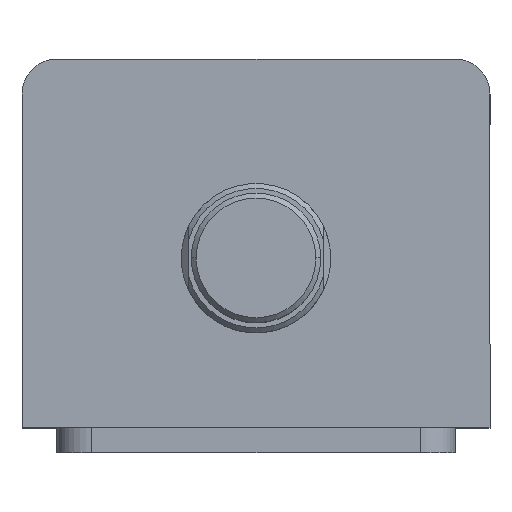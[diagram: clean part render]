
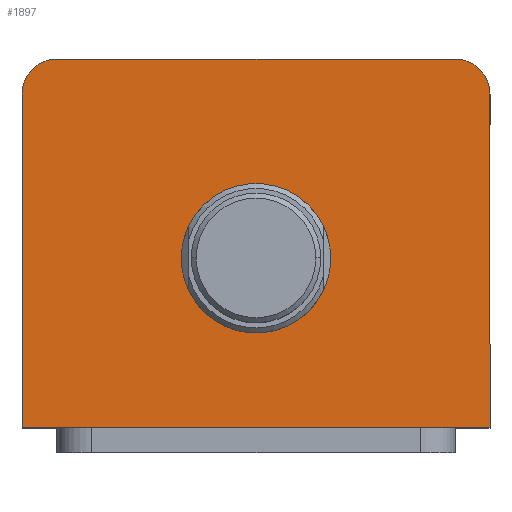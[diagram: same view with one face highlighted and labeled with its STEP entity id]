
A CAD part, top view. The second image highlights one B-rep face of the part: STEP entity #1897.
In plain terms, the highlighted planar face has unit normal (0, 0, 1).
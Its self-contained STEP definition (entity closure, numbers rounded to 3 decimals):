
#211 = VERTEX_POINT ( 'NONE', #2722 ) ;
#240 = VERTEX_POINT ( 'NONE', #2674 ) ;
#242 = VERTEX_POINT ( 'NONE', #2662 ) ;
#270 = VERTEX_POINT ( 'NONE', #2762 ) ;
#301 = VERTEX_POINT ( 'NONE', #2727 ) ;
#311 = VERTEX_POINT ( 'NONE', #2703 ) ;
#314 = VERTEX_POINT ( 'NONE', #2696 ) ;
#315 = VERTEX_POINT ( 'NONE', #2694 ) ;
#412 = EDGE_LOOP ( 'NONE', ( #451, #450, #449, #448, #447, #446 ) ) ;
#418 = EDGE_LOOP ( 'NONE', ( #453, #452 ) ) ;
#446 = ORIENTED_EDGE ( 'NONE', *, *, #2778, .T. ) ;
#447 = ORIENTED_EDGE ( 'NONE', *, *, #750, .T. ) ;
#448 = ORIENTED_EDGE ( 'NONE', *, *, #2579, .T. ) ;
#449 = ORIENTED_EDGE ( 'NONE', *, *, #2801, .T. ) ;
#450 = ORIENTED_EDGE ( 'NONE', *, *, #2791, .T. ) ;
#451 = ORIENTED_EDGE ( 'NONE', *, *, #2580, .T. ) ;
#452 = ORIENTED_EDGE ( 'NONE', *, *, #2578, .F. ) ;
#453 = ORIENTED_EDGE ( 'NONE', *, *, #2814, .F. ) ;
#674 = LINE ( 'NONE', #1397, #679 ) ;
#679 = VECTOR ( 'NONE', #1415, 1000. ) ;
#750 = EDGE_CURVE ( 'NONE', #242, #301, #674, .T. ) ;
#1190 = FACE_BOUND ( 'NONE', #418, .T. ) ;
#1201 = FACE_OUTER_BOUND ( 'NONE', #412, .T. ) ;
#1229 = CIRCLE ( 'NONE', #2033, 15. ) ;
#1231 = LINE ( 'NONE', #2189, #1233 ) ;
#1232 = LINE ( 'NONE', #2142, #1235 ) ;
#1233 = VECTOR ( 'NONE', #2179, 1000. ) ;
#1235 = VECTOR ( 'NONE', #2138, 1000. ) ;
#1281 = CIRCLE ( 'NONE', #2435, 7. ) ;
#1300 = CIRCLE ( 'NONE', #2424, 7. ) ;
#1314 = LINE ( 'NONE', #2218, #1317 ) ;
#1317 = VECTOR ( 'NONE', #2217, 1000. ) ;
#1397 = CARTESIAN_POINT ( 'NONE',  ( 47., 37., 80. ) ) ;
#1415 = DIRECTION ( 'NONE',  ( 0., 1., 0. ) ) ;
#1897 = ADVANCED_FACE ( 'NONE', ( #1190, #1201 ), #2403, .T. ) ;
#2026 = AXIS2_PLACEMENT_3D ( 'NONE', #2376, #2327, #2290 ) ;
#2033 = AXIS2_PLACEMENT_3D ( 'NONE', #2157, #2152, #2151 ) ;
#2138 = DIRECTION ( 'NONE',  ( -1., 0., 0. ) ) ;
#2142 = CARTESIAN_POINT ( 'NONE',  ( -47., 37., 80. ) ) ;
#2151 = DIRECTION ( 'NONE',  ( 1., 0., 0. ) ) ;
#2152 = DIRECTION ( 'NONE',  ( 0., 0., 1. ) ) ;
#2157 = CARTESIAN_POINT ( 'NONE',  ( 0., -3., 80. ) ) ;
#2179 = DIRECTION ( 'NONE',  ( 1., 0., 0. ) ) ;
#2180 = DIRECTION ( 'NONE',  ( 1., 0., 0. ) ) ;
#2183 = DIRECTION ( 'NONE',  ( 0., 0., 1. ) ) ;
#2184 = CARTESIAN_POINT ( 'NONE',  ( 0., -3., 80. ) ) ;
#2189 = CARTESIAN_POINT ( 'NONE',  ( -47., -37., 80. ) ) ;
#2217 = DIRECTION ( 'NONE',  ( 0., -1., 0. ) ) ;
#2218 = CARTESIAN_POINT ( 'NONE',  ( -47., 37., 80. ) ) ;
#2250 = DIRECTION ( 'NONE',  ( 1., 0., 0. ) ) ;
#2251 = DIRECTION ( 'NONE',  ( 0., 0., 1. ) ) ;
#2252 = CARTESIAN_POINT ( 'NONE',  ( -40., 30., 80. ) ) ;
#2290 = DIRECTION ( 'NONE',  ( 1., 0., 0. ) ) ;
#2305 = DIRECTION ( 'NONE',  ( 1., 0., 0. ) ) ;
#2306 = AXIS2_PLACEMENT_3D ( 'NONE', #2184, #2183, #2180 ) ;
#2307 = DIRECTION ( 'NONE',  ( 0., 0., 1. ) ) ;
#2308 = CARTESIAN_POINT ( 'NONE',  ( 40., 30., 80. ) ) ;
#2327 = DIRECTION ( 'NONE',  ( 0., 0., 1. ) ) ;
#2376 = CARTESIAN_POINT ( 'NONE',  ( 0., 0., 80. ) ) ;
#2403 = PLANE ( 'NONE',  #2026 ) ;
#2424 = AXIS2_PLACEMENT_3D ( 'NONE', #2252, #2251, #2250 ) ;
#2435 = AXIS2_PLACEMENT_3D ( 'NONE', #2308, #2307, #2305 ) ;
#2578 = EDGE_CURVE ( 'NONE', #315, #314, #1229, .T. ) ;
#2579 = EDGE_CURVE ( 'NONE', #211, #242, #1231, .T. ) ;
#2580 = EDGE_CURVE ( 'NONE', #311, #240, #1232, .T. ) ;
#2662 = CARTESIAN_POINT ( 'NONE',  ( 47., -37., 80. ) ) ;
#2674 = CARTESIAN_POINT ( 'NONE',  ( -40., 37., 80. ) ) ;
#2694 = CARTESIAN_POINT ( 'NONE',  ( -15., -3., 80. ) ) ;
#2696 = CARTESIAN_POINT ( 'NONE',  ( 15., -3., 80. ) ) ;
#2703 = CARTESIAN_POINT ( 'NONE',  ( 40., 37., 80. ) ) ;
#2722 = CARTESIAN_POINT ( 'NONE',  ( -47., -37., 80. ) ) ;
#2727 = CARTESIAN_POINT ( 'NONE',  ( 47., 30., 80. ) ) ;
#2762 = CARTESIAN_POINT ( 'NONE',  ( -47., 30., 80. ) ) ;
#2778 = EDGE_CURVE ( 'NONE', #301, #311, #1281, .T. ) ;
#2791 = EDGE_CURVE ( 'NONE', #240, #270, #1300, .T. ) ;
#2801 = EDGE_CURVE ( 'NONE', #270, #211, #1314, .T. ) ;
#2814 = EDGE_CURVE ( 'NONE', #314, #315, #2897, .T. ) ;
#2897 = CIRCLE ( 'NONE', #2306, 15. ) ;
